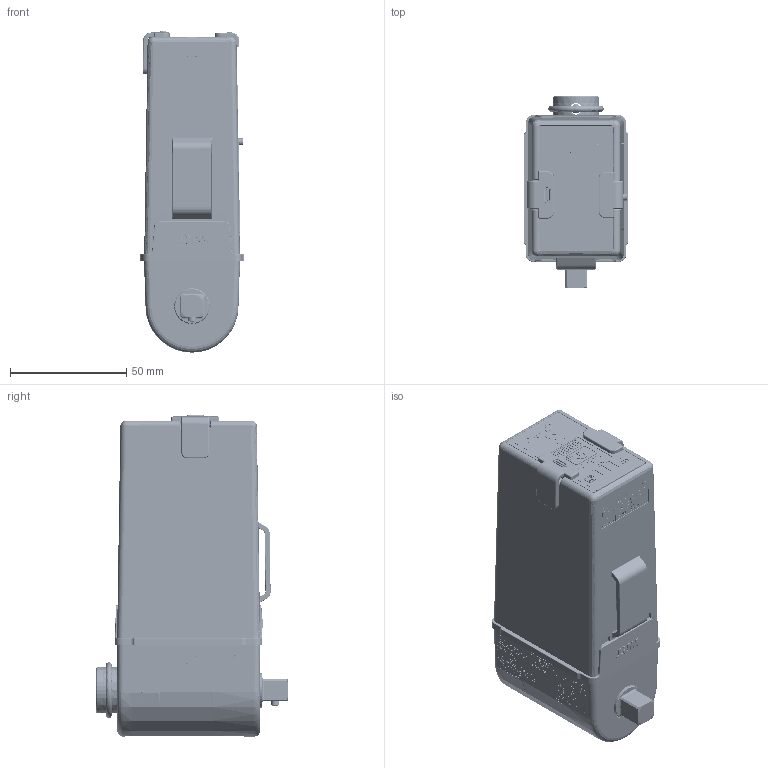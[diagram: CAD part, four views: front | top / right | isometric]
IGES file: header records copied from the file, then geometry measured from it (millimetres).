
Start section:  PTC IGES file: 6152210540_dim.igs
Global section: file name: 6152210540_dim.igs; native system: Creo Parametric by PTC Inc.; preprocessor: 2023254; author: S00000450; organization: Unknown; date: 20240301.151844; units: millimetre
Bounding box: 45 x 82.6 x 138.33 mm (x, y, z)
Surface area: 93728.8 mm2 (no closed solid volume)
Topology: 0 solids, 0 shells, 8991 faces, 49059 edges, 48991 vertices
Faces by surface type: bspline 4365, extrusion 3257, revolution 1369
